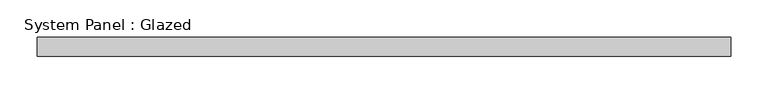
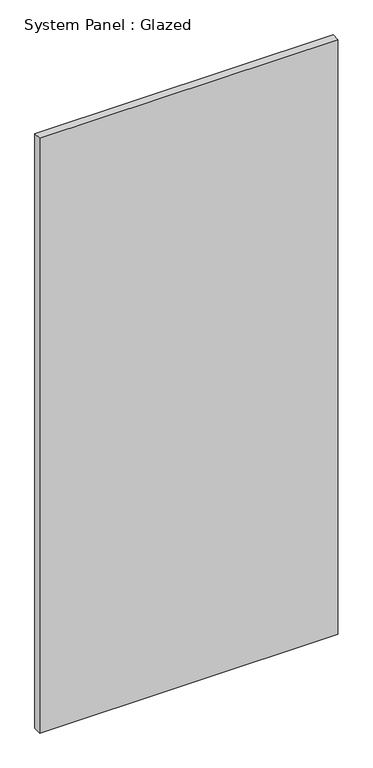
"""IFC4 building model written with IfcOpenShell, lengths in millimetres: plate geometry, System Panel : Glazed."""

from ifc_helpers import new_model, si_unit, origin, origin_with_axes, place, context, project, spatial, polyline, outline, extrude, source, transform, mapped, element, save


def system_panel_glazed_28c32ad2(model_context):
    return source(origin(), model_context, "Body", "SweptSolid", [
        extrude(outline(polyline([(462.5, 24.5), (-462.5, 24.5), (-462.5, 49.5), (462.5, 49.5), (462.5, 24.5)])), origin_with_axes(), (0.0, 0.0, 1.0), 1950.0),
    ])


if __name__ == "__main__":
    model = new_model("IFC4")
    model_context = context("Model", 3, world=origin())
    ifc_project = project(units=[si_unit("LENGTHUNIT", "METRE", prefix="MILLI")], contexts=[model_context])
    site = spatial("IfcSite", under=ifc_project)
    building = spatial("IfcBuilding", under=site)
    placement = place(None, origin())
    system_panel_glazed_shape = system_panel_glazed_28c32ad2(model_context)
    element("IfcPlate", 1, ObjectType="System Panel : Glazed", at=placement, inside=building, context=model_context, shape_type="MappedRepresentation", body=[
        mapped(system_panel_glazed_shape, transform((0.0, 0.0, 0.0), x_axis=(1.0, 0.0, 0.0), y_axis=(0.0, 1.0, 0.0), z_axis=(0.0, 0.0, 1.0))),
    ])
    save(model, "model.ifc")
